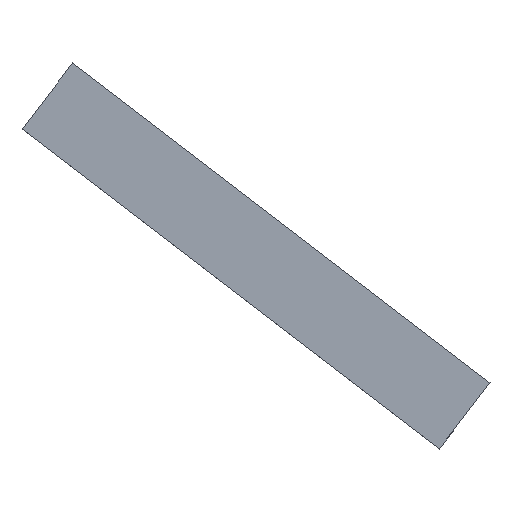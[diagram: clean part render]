
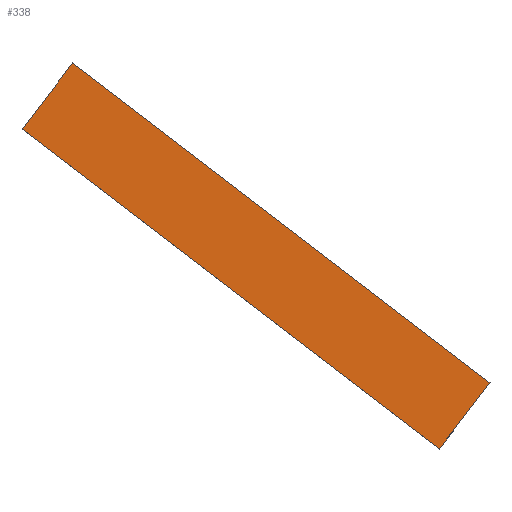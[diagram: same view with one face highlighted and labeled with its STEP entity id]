
A CAD part, top view. The second image highlights one B-rep face of the part: STEP entity #338.
In plain terms, the highlighted planar face has unit normal (0, 0, 1).
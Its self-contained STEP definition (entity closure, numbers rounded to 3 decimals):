
#24 = VERTEX_POINT('',#25);
#25 = CARTESIAN_POINT('',(11.151,248.762,72.));
#32 = PLANE('',#33);
#33 = AXIS2_PLACEMENT_3D('',#34,#35,#36);
#34 = CARTESIAN_POINT('',(11.151,248.762,69.));
#35 = DIRECTION('',(0.608,0.794,-0.));
#36 = DIRECTION('',(0.794,-0.608,0.));
#44 = PLANE('',#45);
#45 = AXIS2_PLACEMENT_3D('',#46,#47,#48);
#46 = CARTESIAN_POINT('',(3.849,239.238,69.));
#47 = DIRECTION('',(-0.794,0.608,0.));
#48 = DIRECTION('',(0.608,0.794,0.));
#56 = EDGE_CURVE('',#24,#57,#59,.T.);
#57 = VERTEX_POINT('',#58);
#58 = CARTESIAN_POINT('',(71.151,202.762,72.));
#59 = SURFACE_CURVE('',#60,(#64,#71),.PCURVE_S1.);
#60 = LINE('',#61,#62);
#61 = CARTESIAN_POINT('',(11.151,248.762,72.));
#62 = VECTOR('',#63,1.);
#63 = DIRECTION('',(0.794,-0.608,0.));
#64 = PCURVE('',#32,#65);
#65 = DEFINITIONAL_REPRESENTATION('',(#66),#70);
#66 = LINE('',#67,#68);
#67 = CARTESIAN_POINT('',(0.,-3.));
#68 = VECTOR('',#69,1.);
#69 = DIRECTION('',(1.,0.));
#70 = ( GEOMETRIC_REPRESENTATION_CONTEXT(2) 
PARAMETRIC_REPRESENTATION_CONTEXT() REPRESENTATION_CONTEXT('2D SPACE',''
  ) );
#71 = PCURVE('',#72,#77);
#72 = PLANE('',#73);
#73 = AXIS2_PLACEMENT_3D('',#74,#75,#76);
#74 = CARTESIAN_POINT('',(37.5,221.,72.));
#75 = DIRECTION('',(-0.,-0.,-1.));
#76 = DIRECTION('',(-1.,0.,0.));
#77 = DEFINITIONAL_REPRESENTATION('',(#78),#82);
#78 = LINE('',#79,#80);
#79 = CARTESIAN_POINT('',(26.349,27.762));
#80 = VECTOR('',#81,1.);
#81 = DIRECTION('',(-0.794,-0.608));
#82 = ( GEOMETRIC_REPRESENTATION_CONTEXT(2) 
PARAMETRIC_REPRESENTATION_CONTEXT() REPRESENTATION_CONTEXT('2D SPACE',''
  ) );
#100 = PLANE('',#101);
#101 = AXIS2_PLACEMENT_3D('',#102,#103,#104);
#102 = CARTESIAN_POINT('',(71.151,202.762,69.));
#103 = DIRECTION('',(0.794,-0.608,0.));
#104 = DIRECTION('',(-0.608,-0.794,0.));
#142 = EDGE_CURVE('',#57,#143,#145,.T.);
#143 = VERTEX_POINT('',#144);
#144 = CARTESIAN_POINT('',(63.849,193.238,72.));
#145 = SURFACE_CURVE('',#146,(#150,#157),.PCURVE_S1.);
#146 = LINE('',#147,#148);
#147 = CARTESIAN_POINT('',(71.151,202.762,72.));
#148 = VECTOR('',#149,1.);
#149 = DIRECTION('',(-0.608,-0.794,0.));
#150 = PCURVE('',#100,#151);
#151 = DEFINITIONAL_REPRESENTATION('',(#152),#156);
#152 = LINE('',#153,#154);
#153 = CARTESIAN_POINT('',(0.,-3.));
#154 = VECTOR('',#155,1.);
#155 = DIRECTION('',(1.,0.));
#156 = ( GEOMETRIC_REPRESENTATION_CONTEXT(2) 
PARAMETRIC_REPRESENTATION_CONTEXT() REPRESENTATION_CONTEXT('2D SPACE',''
  ) );
#157 = PCURVE('',#72,#158);
#158 = DEFINITIONAL_REPRESENTATION('',(#159),#163);
#159 = LINE('',#160,#161);
#160 = CARTESIAN_POINT('',(-33.651,-18.238));
#161 = VECTOR('',#162,1.);
#162 = DIRECTION('',(0.608,-0.794));
#163 = ( GEOMETRIC_REPRESENTATION_CONTEXT(2) 
PARAMETRIC_REPRESENTATION_CONTEXT() REPRESENTATION_CONTEXT('2D SPACE',''
  ) );
#181 = PLANE('',#182);
#182 = AXIS2_PLACEMENT_3D('',#183,#184,#185);
#183 = CARTESIAN_POINT('',(63.849,193.238,69.));
#184 = DIRECTION('',(-0.608,-0.794,0.));
#185 = DIRECTION('',(-0.794,0.608,0.));
#218 = EDGE_CURVE('',#143,#219,#221,.T.);
#219 = VERTEX_POINT('',#220);
#220 = CARTESIAN_POINT('',(3.849,239.238,72.));
#221 = SURFACE_CURVE('',#222,(#226,#233),.PCURVE_S1.);
#222 = LINE('',#223,#224);
#223 = CARTESIAN_POINT('',(63.849,193.238,72.));
#224 = VECTOR('',#225,1.);
#225 = DIRECTION('',(-0.794,0.608,0.));
#226 = PCURVE('',#181,#227);
#227 = DEFINITIONAL_REPRESENTATION('',(#228),#232);
#228 = LINE('',#229,#230);
#229 = CARTESIAN_POINT('',(0.,-3.));
#230 = VECTOR('',#231,1.);
#231 = DIRECTION('',(1.,0.));
#232 = ( GEOMETRIC_REPRESENTATION_CONTEXT(2) 
PARAMETRIC_REPRESENTATION_CONTEXT() REPRESENTATION_CONTEXT('2D SPACE',''
  ) );
#233 = PCURVE('',#72,#234);
#234 = DEFINITIONAL_REPRESENTATION('',(#235),#239);
#235 = LINE('',#236,#237);
#236 = CARTESIAN_POINT('',(-26.349,-27.762));
#237 = VECTOR('',#238,1.);
#238 = DIRECTION('',(0.794,0.608));
#239 = ( GEOMETRIC_REPRESENTATION_CONTEXT(2) 
PARAMETRIC_REPRESENTATION_CONTEXT() REPRESENTATION_CONTEXT('2D SPACE',''
  ) );
#289 = EDGE_CURVE('',#219,#24,#290,.T.);
#290 = SURFACE_CURVE('',#291,(#295,#302),.PCURVE_S1.);
#291 = LINE('',#292,#293);
#292 = CARTESIAN_POINT('',(3.849,239.238,72.));
#293 = VECTOR('',#294,1.);
#294 = DIRECTION('',(0.608,0.794,0.));
#295 = PCURVE('',#44,#296);
#296 = DEFINITIONAL_REPRESENTATION('',(#297),#301);
#297 = LINE('',#298,#299);
#298 = CARTESIAN_POINT('',(0.,-3.));
#299 = VECTOR('',#300,1.);
#300 = DIRECTION('',(1.,0.));
#301 = ( GEOMETRIC_REPRESENTATION_CONTEXT(2) 
PARAMETRIC_REPRESENTATION_CONTEXT() REPRESENTATION_CONTEXT('2D SPACE',''
  ) );
#302 = PCURVE('',#72,#303);
#303 = DEFINITIONAL_REPRESENTATION('',(#304),#308);
#304 = LINE('',#305,#306);
#305 = CARTESIAN_POINT('',(33.651,18.238));
#306 = VECTOR('',#307,1.);
#307 = DIRECTION('',(-0.608,0.794));
#308 = ( GEOMETRIC_REPRESENTATION_CONTEXT(2) 
PARAMETRIC_REPRESENTATION_CONTEXT() REPRESENTATION_CONTEXT('2D SPACE',''
  ) );
#338 = ADVANCED_FACE('',(#339),#72,.F.);
#339 = FACE_BOUND('',#340,.F.);
#340 = EDGE_LOOP('',(#341,#342,#343,#344));
#341 = ORIENTED_EDGE('',*,*,#56,.T.);
#342 = ORIENTED_EDGE('',*,*,#142,.T.);
#343 = ORIENTED_EDGE('',*,*,#218,.T.);
#344 = ORIENTED_EDGE('',*,*,#289,.T.);
